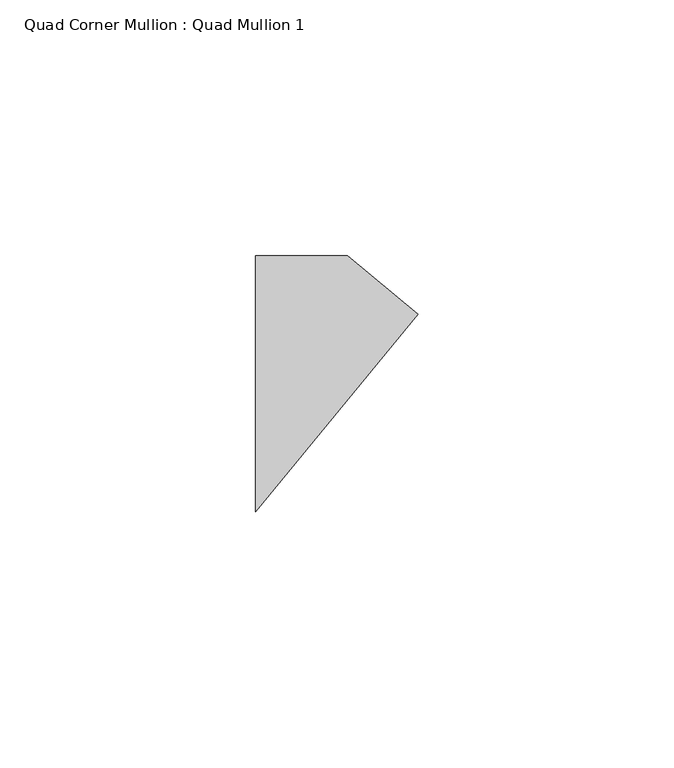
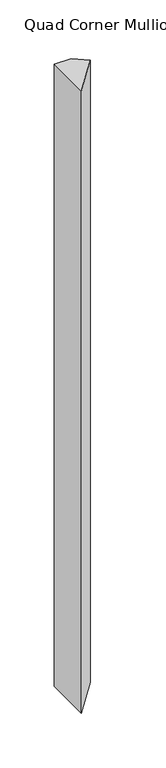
"""IFC4 building model written with IfcOpenShell, lengths in millimetres: member geometry, Quad Corner Mullion : Quad Mullion 1."""

from ifc_helpers import new_model, si_unit, frame, origin, place, context, project, spatial, polyline, outline, extrude, source, transform, mapped, element, save


def quad_corner_mullion_quad_mullion_1_2acf2128(model_context):
    return source(origin(), model_context, "Body", "SweptSolid", [
        extrude(outline(polyline([(22.8068923, 13.6086231), (-8.963758, -25.0), (-8.963758, 25.0), (8.963758, 25.0), (22.8068923, 13.6086231)])), frame((0.0, 0.0, -700.0), z_axis=(0.0, 0.0, 1.0), x_axis=(1.0, 0.0, 0.0)), (0.0, 0.0, 1.0), 700.0),
    ])


if __name__ == "__main__":
    model = new_model("IFC4")
    model_context = context("Model", 3, world=origin())
    ifc_project = project(units=[si_unit("LENGTHUNIT", "METRE", prefix="MILLI")], contexts=[model_context])
    site = spatial("IfcSite", under=ifc_project)
    building = spatial("IfcBuilding", under=site)
    placement = place(None, origin())
    quad_corner_mullion_quad_mullion_1_shape = quad_corner_mullion_quad_mullion_1_2acf2128(model_context)
    element("IfcMember", 1, ObjectType="Quad Corner Mullion : Quad Mullion 1", at=placement, inside=building, context=model_context, shape_type="MappedRepresentation", body=[
        mapped(quad_corner_mullion_quad_mullion_1_shape, transform((0.0, 0.0, 0.0), x_axis=(1.0, 0.0, 0.0), y_axis=(0.0, 1.0, 0.0), z_axis=(0.0, 0.0, 1.0))),
    ])
    save(model, "model.ifc")
